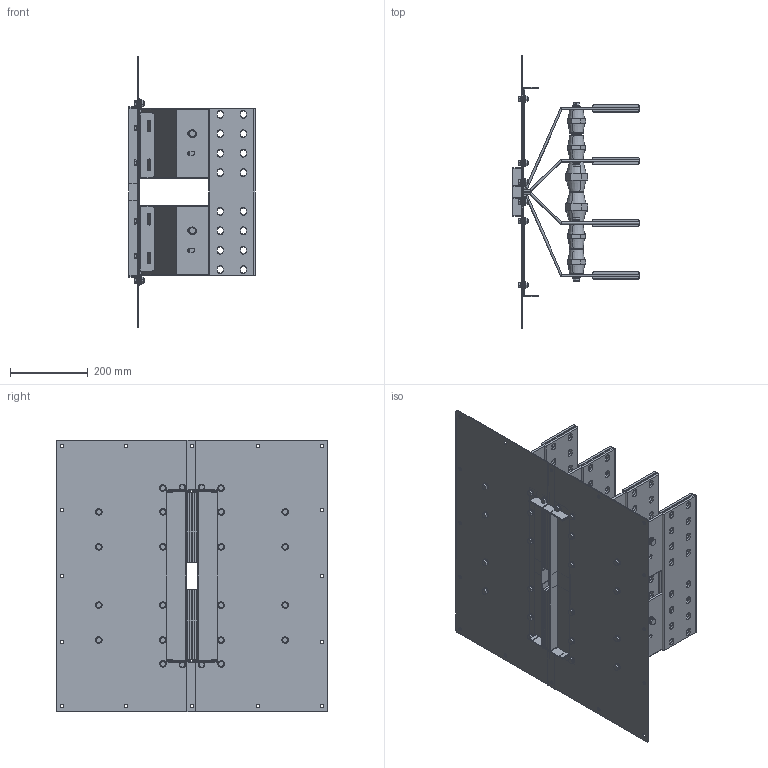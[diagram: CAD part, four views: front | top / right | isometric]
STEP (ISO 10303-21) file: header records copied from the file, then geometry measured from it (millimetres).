
FILE_DESCRIPTION(('CATIA V5 STEP','CAx-IF Rec.Pracs.--- Model Styling and Organization---1.5--- 2016-08-15','CAx-IF Rec.Pracs.---Supplemental Geometry---1.0---2011-11-01','CAx-IF Rec.Pracs.--- Composite Materials ---1.1---2010-07-15'),'2;1');
FILE_NAME('K:\COSCN 2011\32372311_RiduzioneSezioniBarre\03_Studio\__Modelli semplificati\XCP_UB semplificati per studi\XCP-HP_UB_4C_Pe_CRT_Assieme\Al\XCP-HP_UB_4C_Pe_D_Assieme - 3200A Al_CRT\XCP-HP_UB_4C_Pe_D_Assieme - 3200A Al_CRT.stp','2025-05-12T09:48:54+00:00',('Utente Bticino'),('Bticino S.p.A.'),'CATIA Version 5-6 Release 2020 SP5','CATIA V5 STEP AP214 v2','none');
FILE_SCHEMA(('AUTOMOTIVE_DESIGN { 1 0 10303 214 1 1 1 1 }'));
Length unit declared in the file: millimetre
Products named in the file (30): XCP-HP_UB_4C_Pe_D_Assieme - 3200A Al_CRT; XCP-HP_UB_4C_Pe_D_PaccoBarre_3200A Al_CRT; XCP-HP_UB_4C_Pe_D_Lamiere_3200A Al_CRT; XCP-HP_UB_4C_Pe_D_PaccoBarre_3200A Al_CRT_1; XCP-HP_UB_4C_Pe_D - 3200A Al_Bandelle parallelo_CRT; 130006; 130184; 00750033 - RONDELLA PIANA 4.8 D.12 UNI 6592 ZB; Ass_M10x25.1; 00740025 M10x25 UNI5739; Rondella spac M10 UNI 1751; 00750005; 130006_1; 00750033 - RONDELLA PIANA 4.8 D.12 UNI 6592 ZB_1; 130184_1; 130006_2; 00750033 - RONDELLA PIANA 4.8 D.12 UNI 6592 ZB_2; 130006_3; 130006_4; 130184_2; 00750033 - RONDELLA PIANA 4.8 D.12 UNI 6592 ZB_3; 130006_5; 00750033 - RONDELLA PIANA 4.8 D.12 UNI 6592 ZB_4; 130184_3; 130006_6; 00750033 - RONDELLA PIANA 4.8 D.12 UNI 6592 ZB_5; 130006_7; Ass Vite+dado M8; Steel hex flanged SCREW M12x16; Steel hex flanged NUT M8
Assembly tree (63 placements, depth 3):
  XCP-HP_UB_4C_Pe_D_Assieme - 3200A Al_CRT
    XCP-HP_UB_4C_Pe_D_PaccoBarre_3200A Al_CRT
    XCP-HP_UB_4C_Pe_D_Lamiere_3200A Al_CRT
    XCP-HP_UB_4C_Pe_D_PaccoBarre_3200A Al_CRT_1
    XCP-HP_UB_4C_Pe_D - 3200A Al_Bandelle parallelo_CRT
    130006
    130184
    00750033 - RONDELLA PIANA 4.8 D.12 UNI 6592 ZB
    Ass_M10x25.1  x12
      00740025 M10x25 UNI5739
      Rondella spac M10 UNI 1751
      00750005
    130006_1
    00750033 - RONDELLA PIANA 4.8 D.12 UNI 6592 ZB_1
    130184_1
    130006_2
    00750033 - RONDELLA PIANA 4.8 D.12 UNI 6592 ZB_2
    130006_3
    130006_4
    130184_2
    00750033 - RONDELLA PIANA 4.8 D.12 UNI 6592 ZB_3
    130006_5
    00750033 - RONDELLA PIANA 4.8 D.12 UNI 6592 ZB_4
    130184_3
    130006_6
    00750033 - RONDELLA PIANA 4.8 D.12 UNI 6592 ZB_5
    130006_7
    Ass Vite+dado M8  x24
      Steel hex flanged SCREW M12x16
      Steel hex flanged NUT M8
Bounding box: 325 x 700 x 700 mm (x, y, z)
Volume: 8143259.5 mm3; surface area: 3839262.2 mm2
Topology: 132 solids, 132 shells, 3416 faces, 8492 edges, 5400 vertices
Faces by surface type: plane 1560, cylinder 1120, cone 336, bspline 288, torus 112
Entity records: 57572 total; most frequent: CARTESIAN_POINT 11254, ORIENTED_EDGE 10296, DIRECTION 7310, EDGE_CURVE 5148, VERTEX_POINT 3332, VECTOR 3160, LINE 3160, AXIS2_PLACEMENT_3D 3014
